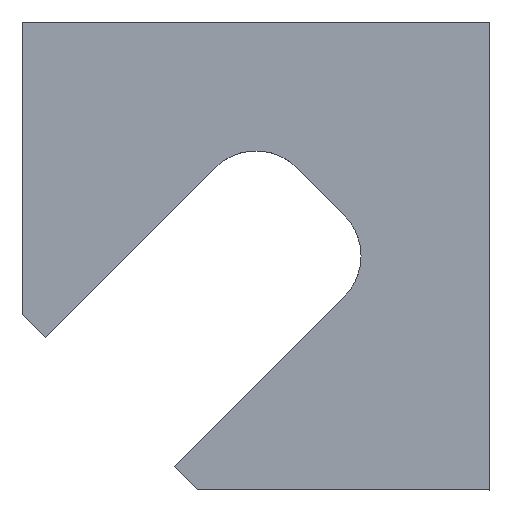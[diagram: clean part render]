
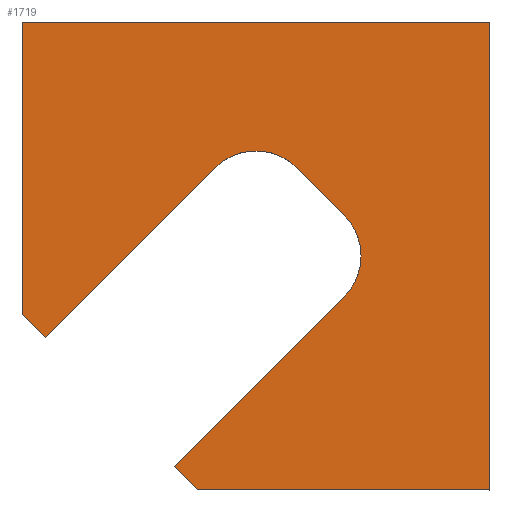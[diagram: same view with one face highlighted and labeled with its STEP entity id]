
A CAD part, front view. The second image highlights one B-rep face of the part: STEP entity #1719.
In plain terms, the highlighted planar face has unit normal (0, -1, 0).
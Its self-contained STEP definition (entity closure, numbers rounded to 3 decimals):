
#767=CARTESIAN_POINT('',(8.182,-5.,-1.));
#768=VERTEX_POINT('',#767);
#775=CARTESIAN_POINT('',(7.01,-5.0,1.828));
#776=VERTEX_POINT('',#775);
#777=CARTESIAN_POINT('',(4.182,-5.,-1.));
#778=DIRECTION('',(0.0,1.0,0.0));
#779=DIRECTION('',(-1.0,0.0,0.0));
#780=AXIS2_PLACEMENT_3D('',#777,#778,#779);
#781=CIRCLE('',#780,4.0);
#782=EDGE_CURVE('',#776,#768,#781,.T.);
#1037=CARTESIAN_POINT('',(3.828,-5.0,5.01));
#1038=VERTEX_POINT('',#1037);
#1045=CARTESIAN_POINT('',(-1.828,-5.0,5.01));
#1046=VERTEX_POINT('',#1045);
#1047=CARTESIAN_POINT('',(1.0,-5.,2.182));
#1048=DIRECTION('',(0.0,1.0,0.0));
#1049=DIRECTION('',(-1.0,0.0,0.0));
#1050=AXIS2_PLACEMENT_3D('',#1047,#1048,#1049);
#1051=CIRCLE('',#1050,4.0);
#1052=EDGE_CURVE('',#1046,#1038,#1051,.T.);
#1165=CARTESIAN_POINT('',(-13.419,-5.0,-6.581));
#1166=VERTEX_POINT('',#1165);
#1175=CARTESIAN_POINT('',(-15.0,-5.0,-5.0));
#1176=VERTEX_POINT('',#1175);
#1177=CARTESIAN_POINT('',(-15.0,-5.0,-5.0));
#1178=DIRECTION('',(0.707,0.0,-0.707));
#1179=VECTOR('',#1178,2.235);
#1180=LINE('',#1177,#1179);
#1181=EDGE_CURVE('',#1176,#1166,#1180,.T.);
#1215=CARTESIAN_POINT('',(-3.,-5.0,-17.0));
#1216=VERTEX_POINT('',#1215);
#1223=CARTESIAN_POINT('',(-4.581,-5.0,-15.419));
#1224=VERTEX_POINT('',#1223);
#1225=CARTESIAN_POINT('',(-4.581,-5.0,-15.419));
#1226=DIRECTION('',(0.707,0.0,-0.707));
#1227=VECTOR('',#1226,2.235);
#1228=LINE('',#1225,#1227);
#1229=EDGE_CURVE('',#1224,#1216,#1228,.T.);
#1254=CARTESIAN_POINT('',(17.0,-5.0,-17.0));
#1255=VERTEX_POINT('',#1254);
#1262=CARTESIAN_POINT('',(-3.,-5.0,-17.0));
#1263=DIRECTION('',(1.0,0.0,0.0));
#1264=VECTOR('',#1263,20.0);
#1265=LINE('',#1262,#1264);
#1266=EDGE_CURVE('',#1216,#1255,#1265,.T.);
#1363=CARTESIAN_POINT('',(3.828,-5.0,5.01));
#1364=DIRECTION('',(0.707,0.0,-0.707));
#1365=VECTOR('',#1364,4.5);
#1366=LINE('',#1363,#1365);
#1367=EDGE_CURVE('',#1038,#776,#1366,.T.);
#1381=CARTESIAN_POINT('',(-13.419,-5.0,-6.581));
#1382=DIRECTION('',(0.707,0.0,0.707));
#1383=VECTOR('',#1382,16.392);
#1384=LINE('',#1381,#1383);
#1385=EDGE_CURVE('',#1166,#1046,#1384,.T.);
#1416=CARTESIAN_POINT('',(7.01,-5.0,-3.828));
#1417=VERTEX_POINT('',#1416);
#1418=CARTESIAN_POINT('',(7.01,-5.0,-3.828));
#1419=DIRECTION('',(-0.707,0.0,-0.707));
#1420=VECTOR('',#1419,16.392);
#1421=LINE('',#1418,#1420);
#1422=EDGE_CURVE('',#1417,#1224,#1421,.T.);
#1512=CARTESIAN_POINT('',(4.182,-5.,-1.));
#1513=DIRECTION('',(0.0,1.0,0.0));
#1514=DIRECTION('',(-1.0,0.0,0.0));
#1515=AXIS2_PLACEMENT_3D('',#1512,#1513,#1514);
#1516=CIRCLE('',#1515,4.0);
#1517=EDGE_CURVE('',#768,#1417,#1516,.T.);
#1528=CARTESIAN_POINT('',(-15.0,-5.0,15.0));
#1529=VERTEX_POINT('',#1528);
#1530=CARTESIAN_POINT('',(-15.0,-5.0,15.0));
#1531=DIRECTION('',(0.0,0.0,-1.0));
#1532=VECTOR('',#1531,20.0);
#1533=LINE('',#1530,#1532);
#1534=EDGE_CURVE('',#1529,#1176,#1533,.T.);
#1688=CARTESIAN_POINT('',(-16.6,-5.0,16.6));
#1689=DIRECTION('',(0.0,-1.0,0.0));
#1690=DIRECTION('',(0.0,0.0,-1.0));
#1691=AXIS2_PLACEMENT_3D('',#1688,#1689,#1690);
#1692=PLANE('',#1691);
#1693=ORIENTED_EDGE('',*,*,#1229,.T.);
#1694=ORIENTED_EDGE('',*,*,#1266,.T.);
#1695=CARTESIAN_POINT('',(17.0,-5.0,15.0));
#1696=VERTEX_POINT('',#1695);
#1697=CARTESIAN_POINT('',(17.0,-5.0,15.0));
#1698=DIRECTION('',(0.0,0.0,-1.0));
#1699=VECTOR('',#1698,32.0);
#1700=LINE('',#1697,#1699);
#1701=EDGE_CURVE('',#1696,#1255,#1700,.T.);
#1702=ORIENTED_EDGE('',*,*,#1701,.F.);
#1703=CARTESIAN_POINT('',(-15.0,-5.0,15.0));
#1704=DIRECTION('',(1.0,0.0,0.0));
#1705=VECTOR('',#1704,32.0);
#1706=LINE('',#1703,#1705);
#1707=EDGE_CURVE('',#1529,#1696,#1706,.T.);
#1708=ORIENTED_EDGE('',*,*,#1707,.F.);
#1709=ORIENTED_EDGE('',*,*,#1534,.T.);
#1710=ORIENTED_EDGE('',*,*,#1181,.T.);
#1711=ORIENTED_EDGE('',*,*,#1385,.T.);
#1712=ORIENTED_EDGE('',*,*,#1052,.T.);
#1713=ORIENTED_EDGE('',*,*,#1367,.T.);
#1714=ORIENTED_EDGE('',*,*,#782,.T.);
#1715=ORIENTED_EDGE('',*,*,#1517,.T.);
#1716=ORIENTED_EDGE('',*,*,#1422,.T.);
#1717=EDGE_LOOP('',(#1693,#1694,#1702,#1708,#1709,#1710,#1711,#1712,#1713,#1714,#1715,#1716));
#1718=FACE_OUTER_BOUND('',#1717,.T.);
#1719=ADVANCED_FACE('',(#1718),#1692,.T.);
